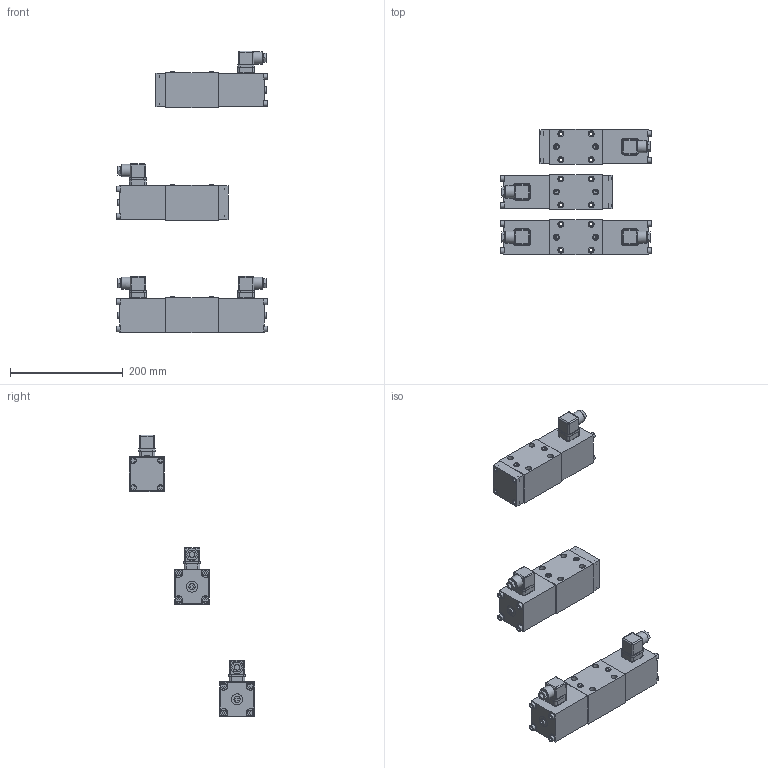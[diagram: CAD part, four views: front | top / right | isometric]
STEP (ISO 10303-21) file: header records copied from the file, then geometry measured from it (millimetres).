
FILE_DESCRIPTION(('Bauteilbeschreibung','HiCAD-Model','HiCAD-STEP-TRANSLATION','Bauteilbeschreibung'),'2;1');
FILE_NAME('K:/STEP_DXF/A_W4_10.STP','2006-07-28T10:52:44+00:00',('Konstrukteur'),('Konstrukteur Firma GmbH'),'HiCAD3 V1210 STEP 1.6.2005','HiCAD3 V1210','confidential');
FILE_SCHEMA(('AUTOMOTIVE_DESIGN { 1 2 10303 214 0 1 1 1 }'));
Length unit declared in the file: millimetre
Products named in the file (78): A_W4_10; A_W4D10; BF2CF20E; C5EE4541; AF5ECF44; F134825D; CA9517B3; CA9517B30; DICHTUNG; IN6KTM6; IN6KTM60; IN6KTM61; IN6KTM62; IN6KTM63; IN6KTM64; IN6KTM65; IN6KTM66; IN6KTM67; IN6KTM68; AF55A0CF; AF55A0CF0; C5EE45410; CA9517B31; CA9517B32; DICHTUNG0; AF5ECF440; F134825D0; D82DEE49; D82DEE490; FLANSCHNG10; A_W4Z10_A; A7F83DD0; C5EE45411; CA9517B33; CA9517B34; DICHTUNG1; AF5ECF441; F134825D1; IN6KTM69; IN6KTM610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
Assembly tree (77 placements, depth 6):
  A_W4_10
    A_W4D10
      BF2CF20E
        C5EE4541
          AF5ECF44
          F134825D
          CA9517B3
          CA9517B30
            DICHTUNG
        IN6KTM6
          IN6KTM60
          IN6KTM61
          IN6KTM62
          IN6KTM63
        IN6KTM64
          IN6KTM65
          IN6KTM66
          IN6KTM67
          IN6KTM68
        AF55A0CF
        AF55A0CF0
        C5EE45410
          CA9517B31
          CA9517B32
            DICHTUNG0
          AF5ECF440
          F134825D0
        D82DEE49
        D82DEE490
        FLANSCHNG10
    A_W4Z10_A
      A7F83DD0
        C5EE45411
          CA9517B33
          CA9517B34
            DICHTUNG1
          AF5ECF441
          F134825D1
        IN6KTM69
          IN6KTM610
          IN6KTM611
          IN6KTM612
          IN6KTM613
        AF55A0CF1
        AF55A0CF2
        D82DEE491
        FLANSCHNG100
        A275F443
        A275F4430
          IN6KTM614
            IN6KTM615
            IN6KTM616
            IN6KTM617
            IN6KTM618
    A_W4Z10_B
      C2AA5A14
        IN6KTM619
          IN6KTM620
          IN6KTM621
          IN6KTM622
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Bounding box: 267.4 x 222 x 500 mm (x, y, z)
Volume: 2430243.5 mm3; surface area: 338842.7 mm2
Topology: 67 solids, 67 shells, 1092 faces, 2460 edges, 1645 vertices
Faces by surface type: plane 723, cylinder 319, cone 30, sphere 16, torus 4
Full cylindrical faces by diameter (mm): 1.5 x12, 3 x12, 4.9 x4, 6 x24, 6.5 x36, 6.8 x4, 7 x4, 8 x8, 10 x34, 10.5 x26, 11 x4, 14 x4, 15 x8, 16.9 x15, 20 x4, 22 x4, 32 x4
Entity records: 50415 total; most frequent: CARTESIAN_POINT 5684, DIRECTION 5250, ORIENTED_EDGE 4196, COLOUR_RGB 3245, PRESENTATION_STYLE_ASSIGNMENT 3245, OVER_RIDING_STYLED_ITEM 3190, CURVE_STYLE 2098, DRAUGHTING_PRE_DEFINED_CURVE_FONT 2098
